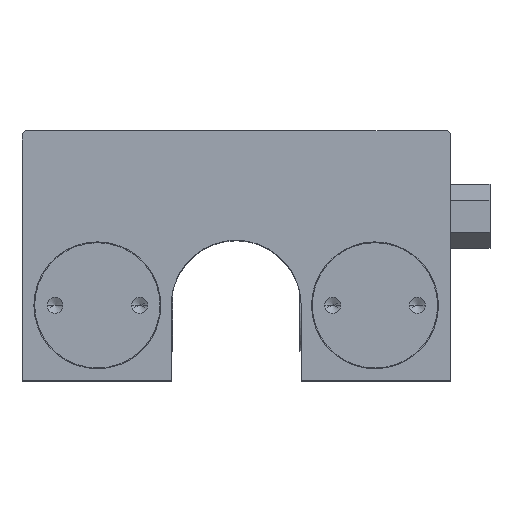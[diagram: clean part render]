
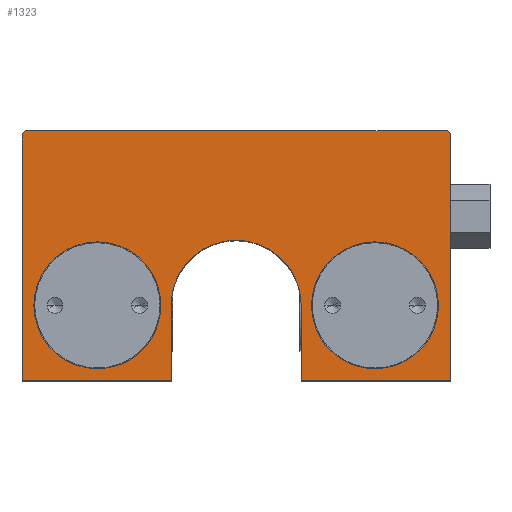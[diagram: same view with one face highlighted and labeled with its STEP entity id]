
A CAD part, top view. The second image highlights one B-rep face of the part: STEP entity #1323.
In plain terms, the highlighted planar face has unit normal (0, 0, 1).
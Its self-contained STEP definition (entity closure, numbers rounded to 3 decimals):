
#1043 = EDGE_CURVE( '', #2317, #1755, #2806, .T. );
#1129 = VERTEX_POINT( '', #2905 );
#1163 = VERTEX_POINT( '', #2942 );
#1203 = EDGE_CURVE( '', #2571, #1163, #2996, .T. );
#1227 = EDGE_CURVE( '', #1755, #2317, #3023, .T. );
#1305 = EDGE_CURVE( '', #2599, #2467, #3113, .T. );
#1323 = ADVANCED_FACE( '', ( #3133, #3134, #3135 ), #3136, .F. );
#1341 = VERTEX_POINT( '', #3154 );
#1621 = EDGE_CURVE( '', #2467, #2599, #3472, .T. );
#1679 = EDGE_CURVE( '', #2265, #2147, #3537, .T. );
#1699 = EDGE_CURVE( '', #1129, #1341, #3560, .T. );
#1731 = EDGE_CURVE( '', #2147, #2479, #3593, .T. );
#1755 = VERTEX_POINT( '', #3619 );
#1757 = VERTEX_POINT( '', #3621 );
#1891 = VERTEX_POINT( '', #3766 );
#1989 = VERTEX_POINT( '', #3874 );
#2047 = EDGE_CURVE( '', #1163, #1129, #3937, .T. );
#2147 = VERTEX_POINT( '', #4047 );
#2187 = EDGE_CURVE( '', #2479, #1891, #4090, .T. );
#2203 = EDGE_CURVE( '', #1757, #1989, #4107, .T. );
#2215 = EDGE_CURVE( '', #1891, #2571, #4120, .T. );
#2265 = VERTEX_POINT( '', #4178 );
#2317 = VERTEX_POINT( '', #4234 );
#2389 = EDGE_CURVE( '', #1989, #2265, #4317, .T. );
#2467 = VERTEX_POINT( '', #4402 );
#2479 = VERTEX_POINT( '', #4417 );
#2507 = EDGE_CURVE( '', #1341, #1757, #4448, .T. );
#2571 = VERTEX_POINT( '', #4522 );
#2599 = VERTEX_POINT( '', #4552 );
#2806 = CIRCLE( '', #4834, 8. );
#2905 = CARTESIAN_POINT( '', ( -8.2, 0., 18.5 ) );
#2942 = CARTESIAN_POINT( '', ( -8.2, 9.5, 18.5 ) );
#2996 = CIRCLE( '', #5127, 8.2 );
#3023 = CIRCLE( '', #5164, 8. );
#3113 = CIRCLE( '', #5285, 8. );
#3133 = FACE_BOUND( '', #5311, .T. );
#3134 = FACE_BOUND( '', #5312, .T. );
#3135 = FACE_OUTER_BOUND( '', #5313, .T. );
#3136 = PLANE( '', #5314 );
#3154 = CARTESIAN_POINT( '', ( -27., 0., 18.5 ) );
#3472 = CIRCLE( '', #5830, 8. );
#3537 = LINE( '', #5913, #5914 );
#3560 = LINE( '', #5946, #5947 );
#3593 = LINE( '', #6031, #6032 );
#3619 = CARTESIAN_POINT( '', ( 25.5, 9.5, 18.5 ) );
#3621 = CARTESIAN_POINT( '', ( -27., 31.1, 18.5 ) );
#3766 = CARTESIAN_POINT( '', ( 8.2, 0., 18.5 ) );
#3874 = CARTESIAN_POINT( '', ( -26.6, 31.5, 18.5 ) );
#3937 = LINE( '', #6489, #6490 );
#4047 = CARTESIAN_POINT( '', ( 27., 31.1, 18.5 ) );
#4090 = LINE( '', #6721, #6722 );
#4107 = LINE( '', #6749, #6750 );
#4120 = LINE( '', #6767, #6768 );
#4178 = CARTESIAN_POINT( '', ( 26.6, 31.5, 18.5 ) );
#4234 = CARTESIAN_POINT( '', ( 9.5, 9.5, 18.5 ) );
#4317 = LINE( '', #7039, #7040 );
#4402 = CARTESIAN_POINT( '', ( -25.5, 9.5, 18.5 ) );
#4417 = CARTESIAN_POINT( '', ( 27., 0., 18.5 ) );
#4448 = LINE( '', #7219, #7220 );
#4522 = CARTESIAN_POINT( '', ( 8.2, 9.5, 18.5 ) );
#4552 = CARTESIAN_POINT( '', ( -9.5, 9.5, 18.5 ) );
#4834 = AXIS2_PLACEMENT_3D( '', #7618, #7619, #7620 );
#5127 = AXIS2_PLACEMENT_3D( '', #7854, #7855, #7856 );
#5164 = AXIS2_PLACEMENT_3D( '', #7887, #7888, #7889 );
#5285 = AXIS2_PLACEMENT_3D( '', #8008, #8009, #8010 );
#5311 = EDGE_LOOP( '', ( #8036, #8037 ) );
#5312 = EDGE_LOOP( '', ( #8038, #8039 ) );
#5313 = EDGE_LOOP( '', ( #8040, #8041, #8042, #8043, #8044, #8045, #8046, #8047, #8048, #8049 ) );
#5314 = AXIS2_PLACEMENT_3D( '', #8050, #8051, #8052 );
#5830 = AXIS2_PLACEMENT_3D( '', #8451, #8452, #8453 );
#5913 = CARTESIAN_POINT( '', ( 26.6, 31.5, 18.5 ) );
#5914 = VECTOR( '', #8522, 1. );
#5946 = CARTESIAN_POINT( '', ( -8.2, 0., 18.5 ) );
#5947 = VECTOR( '', #8547, 1. );
#6031 = CARTESIAN_POINT( '', ( 27., 31.1, 18.5 ) );
#6032 = VECTOR( '', #8574, 1. );
#6489 = CARTESIAN_POINT( '', ( -8.2, 9.5, 18.5 ) );
#6490 = VECTOR( '', #8933, 1. );
#6721 = CARTESIAN_POINT( '', ( 27., 0., 18.5 ) );
#6722 = VECTOR( '', #9065, 1. );
#6749 = CARTESIAN_POINT( '', ( -27., 31.1, 18.5 ) );
#6750 = VECTOR( '', #9081, 1. );
#6767 = CARTESIAN_POINT( '', ( 8.2, 0., 18.5 ) );
#6768 = VECTOR( '', #9094, 1. );
#7039 = CARTESIAN_POINT( '', ( -26.6, 31.5, 18.5 ) );
#7040 = VECTOR( '', #9342, 1. );
#7219 = CARTESIAN_POINT( '', ( -27., 0., 18.5 ) );
#7220 = VECTOR( '', #9471, 1. );
#7618 = CARTESIAN_POINT( '', ( 17.5, 9.5, 18.5 ) );
#7619 = DIRECTION( '', ( 0., 0., -1. ) );
#7620 = DIRECTION( '', ( -1., 0., 0. ) );
#7854 = CARTESIAN_POINT( '', ( 0., 9.5, 18.5 ) );
#7855 = DIRECTION( '', ( 0., 0., 1. ) );
#7856 = DIRECTION( '', ( 1., 0., 0. ) );
#7887 = CARTESIAN_POINT( '', ( 17.5, 9.5, 18.5 ) );
#7888 = DIRECTION( '', ( 0., 0., -1. ) );
#7889 = DIRECTION( '', ( -1., 0., 0. ) );
#8008 = CARTESIAN_POINT( '', ( -17.5, 9.5, 18.5 ) );
#8009 = DIRECTION( '', ( 0., 0., -1. ) );
#8010 = DIRECTION( '', ( -1., 0., 0. ) );
#8036 = ORIENTED_EDGE( '', *, *, #1305, .T. );
#8037 = ORIENTED_EDGE( '', *, *, #1621, .T. );
#8038 = ORIENTED_EDGE( '', *, *, #1227, .T. );
#8039 = ORIENTED_EDGE( '', *, *, #1043, .T. );
#8040 = ORIENTED_EDGE( '', *, *, #2215, .F. );
#8041 = ORIENTED_EDGE( '', *, *, #2187, .F. );
#8042 = ORIENTED_EDGE( '', *, *, #1731, .F. );
#8043 = ORIENTED_EDGE( '', *, *, #1679, .F. );
#8044 = ORIENTED_EDGE( '', *, *, #2389, .F. );
#8045 = ORIENTED_EDGE( '', *, *, #2203, .F. );
#8046 = ORIENTED_EDGE( '', *, *, #2507, .F. );
#8047 = ORIENTED_EDGE( '', *, *, #1699, .F. );
#8048 = ORIENTED_EDGE( '', *, *, #2047, .F. );
#8049 = ORIENTED_EDGE( '', *, *, #1203, .F. );
#8050 = CARTESIAN_POINT( '', ( 0., 0., 18.5 ) );
#8051 = DIRECTION( '', ( 0., 0., -1. ) );
#8052 = DIRECTION( '', ( -1., 0., 0. ) );
#8451 = CARTESIAN_POINT( '', ( -17.5, 9.5, 18.5 ) );
#8452 = DIRECTION( '', ( 0., 0., -1. ) );
#8453 = DIRECTION( '', ( -1., 0., 0. ) );
#8522 = DIRECTION( '', ( 0.707, -0.707, 0. ) );
#8547 = DIRECTION( '', ( -1., 0., 0. ) );
#8574 = DIRECTION( '', ( 0., -1., 0. ) );
#8933 = DIRECTION( '', ( 0., -1., 0. ) );
#9065 = DIRECTION( '', ( -1., 0., 0. ) );
#9081 = DIRECTION( '', ( 0.707, 0.707, 0. ) );
#9094 = DIRECTION( '', ( 0., 1., 0. ) );
#9342 = DIRECTION( '', ( 1., 0., 0. ) );
#9471 = DIRECTION( '', ( 0., 1., 0. ) );
